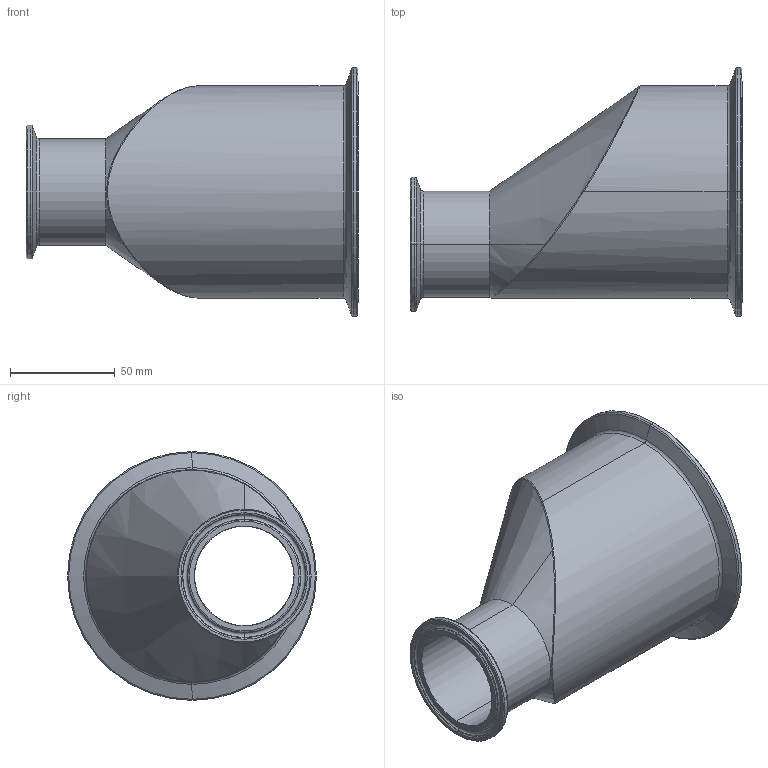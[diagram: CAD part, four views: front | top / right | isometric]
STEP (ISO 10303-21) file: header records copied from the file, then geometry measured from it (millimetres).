
FILE_DESCRIPTION (( 'STEP AP214' ), '1' );
FILE_NAME ('TEG32SCC6L4.0x2.0-...STEP', '2016-06-01T13:11:30', ( 'eran' ), ( '' ), 'SwSTEP 2.0', 'SolidWorks 2016', '' );
FILE_SCHEMA (( 'AUTOMOTIVE_DESIGN' ));
Length unit declared in the file: millimetre
Products named in the file (1): TEG32SCC6L4.0x2.0-..
Bounding box: 158.75 x 119 x 119 mm (x, y, z)
Volume: 377473 mm3; surface area: 83325.4 mm2
Topology: 1 solids, 1 shells, 72 faces, 154 edges, 84 vertices
Faces by surface type: cone 25, torus 25, cylinder 14, bspline 4, plane 4
Entity records: 2953 total; most frequent: CARTESIAN_POINT 1370, DIRECTION 362, ORIENTED_EDGE 304, AXIS2_PLACEMENT_3D 163, EDGE_CURVE 152, CIRCLE 94, VERTEX_POINT 84, EDGE_LOOP 76
